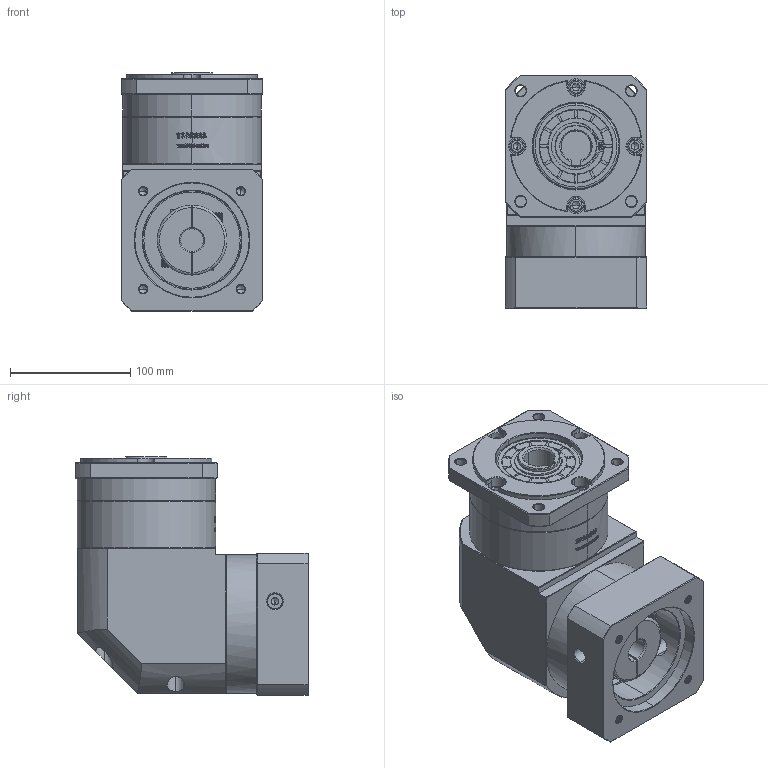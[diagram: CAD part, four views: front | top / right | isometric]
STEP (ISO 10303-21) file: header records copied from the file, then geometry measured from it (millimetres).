
FILE_DESCRIPTION (( 'STEP AP214' ), '1' );
FILE_NAME ('ZFR120A-K25-L1-19-95-115-M8.step', '2023-03-08T08:29:21', ( '' ), ( '' ), 'SwSTEP 2.0', 'SolidWorks 2016', '' );
FILE_SCHEMA (( 'AUTOMOTIVE_DESIGN' ));
Length unit declared in the file: millimetre
Products named in the file (1): ZFR120A-K25-L1-19-95-115-M8
Bounding box: 118 x 193.9 x 198 mm (x, y, z)
Volume: 2853953.6 mm3; surface area: 241868 mm2
Topology: 6 solids, 6 shells, 2813 faces, 7534 edges, 4866 vertices
Faces by surface type: plane 1477, bspline 597, cylinder 401, cone 330, torus 8
Entity records: 152457 total; most frequent: CARTESIAN_POINT 56816, ORIENTED_EDGE 15012, DIRECTION 10941, EDGE_CURVE 7506, VERTEX_POINT 4866, LINE 4695, VECTOR 4695, AXIS2_PLACEMENT_3D 3123
